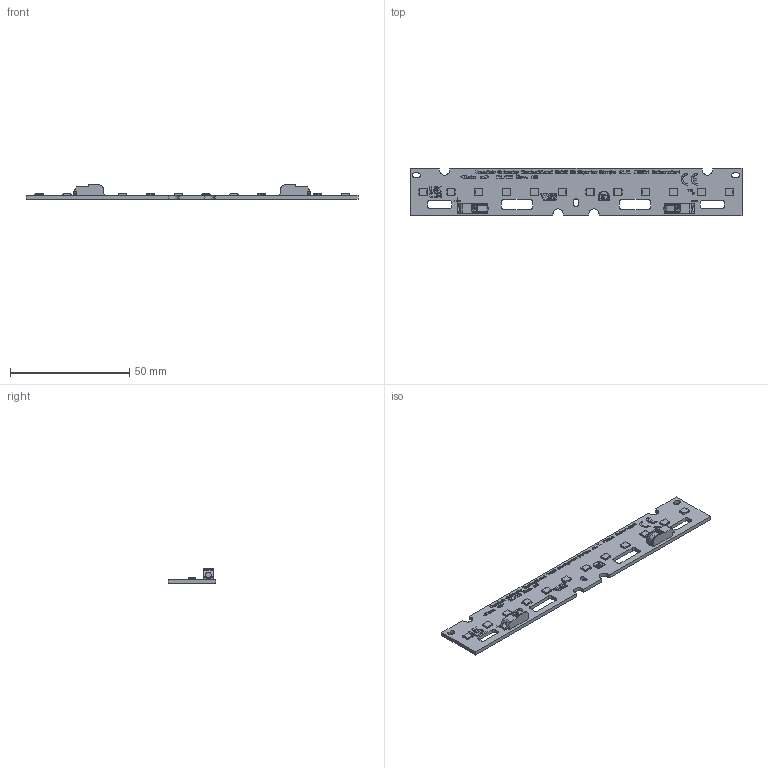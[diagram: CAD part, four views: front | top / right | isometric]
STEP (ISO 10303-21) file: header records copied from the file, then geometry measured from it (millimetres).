
FILE_DESCRIPTION(('Creo Elements/Direct Modeling STEP Export'),'2;1');
FILE_NAME('3D-Model_WU-M-732-TC.stp','2024-11-20T11:51:11',(''),(''),'PTC Creo Elements/Direct Modeling STEP processor for AP214 (Solid Model)','PTC Creo Elements/Direct Modeling 19.0E 27-Jun-2016 (C) Parametric Technology GmbH','');
FILE_SCHEMA(('AUTOMOTIVE_DESIGN { 1 0 10303 214 1 1 1 1 }'));
Length unit declared in the file: millimetre
Products named in the file (356): _____STEP_PRT_3-12100.PRT.5; _____STEP_PRT_3-12100.PRT.4; _____STEP_PRT_3-12100.PRT.3; _____STEP_PRT_3-12100.PRT.2; _____STEP_PRT_3-12100.PRT.1; _____STEP_PRT_3-12100.PRT; _____STEP_PRT-24640.PRT.5; _____STEP_PRT-24640.PRT.4; _____STEP_PRT-24640.PRT.3; _____STEP_PRT-24640.PRT.2; _____STEP_PRT-24640.PRT.1; _____STEP_PRT-24640.PRT; _____-0_STEP_PRT_3-133810.PRT.5; _____-0_STEP_PRT_3-133810.PRT.4; _____-0_STEP_PRT_3-133810.PRT.3; _____-0_STEP_PRT_3-133810.PRT.2; _____-0_STEP_PRT_3-133810.PRT.1; _____-0_STEP_PRT_3-133810.PRT; _____-0_STEP_PRT-243790.PRT.5; _____-0_STEP_PRT-243790.PRT.4; _____-0_STEP_PRT-243790.PRT.3; _____-0_STEP_PRT-243790.PRT.2; _____-0_STEP_PRT-243790.PRT.1; _____-0_STEP_PRT-243790.PRT; 3D-PLATE_WU-M-731_99-404760.PRT; 3D-PLATE_WU-M-731_98-419580.PRT; 3D-PLATE_WU-M-731_97-429780.PRT; 3D-PLATE_WU-M-731_96-440700.PRT; 3D-PLATE_WU-M-731_95-445120.PRT; 3D-PLATE_WU-M-731_94-460100.PRT; 3D-PLATE_WU-M-731_93-469110.PRT; 3D-PLATE_WU-M-731_92-479160.PRT; 3D-PLATE_WU-M-731_91-490060.PRT; 3D-PLATE_WU-M-731_90-496920.PRT; 3D-PLATE_WU-M-731_9-507760.PRT; 3D-PLATE_WU-M-731_89-516220.PRT; 3D-PLATE_WU-M-731_88-527500.PRT; 3D-PLATE_WU-M-731_87-533130.PRT; 3D-PLATE_WU-M-731_86-543120.PRT; 3D-PLATE_WU-M-731_85-557660.PRT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
Assembly tree (178 placements, depth 2):
  _____STEP_PRT_3-12100.PRT.5
    _____STEP_PRT_3-12100.PRT.5
  _____STEP_PRT_3-12100.PRT.4
    _____STEP_PRT_3-12100.PRT.4
  _____STEP_PRT_3-12100.PRT.3
    _____STEP_PRT_3-12100.PRT.3
  _____STEP_PRT_3-12100.PRT.2
    _____STEP_PRT_3-12100.PRT.2
  _____STEP_PRT_3-12100.PRT.1
    _____STEP_PRT_3-12100.PRT.1
Bounding box: 139 x 20 x 6.1 mm (x, y, z)
Volume: 4494.9 mm3; surface area: 7963.7 mm2
Topology: 178 solids, 178 shells, 6737 faces, 18589 edges, 12174 vertices
Faces by surface type: plane 4999, cylinder 1734, sphere 4
Entity records: 272202 total; most frequent: CARTESIAN_POINT 37888, ORIENTED_EDGE 37170, DIRECTION 35888, EDGE_CURVE 18585, VECTOR 15072, LINE 15072, VERTEX_POINT 12174, AXIS2_PLACEMENT_3D 10408
